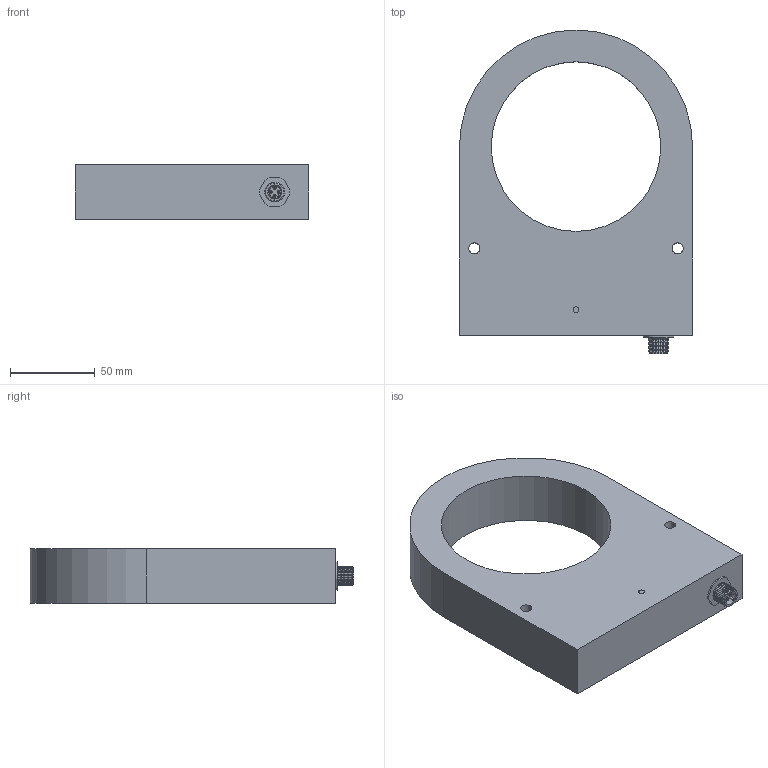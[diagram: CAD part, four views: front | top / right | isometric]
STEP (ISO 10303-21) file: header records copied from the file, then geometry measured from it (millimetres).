
FILE_DESCRIPTION((''),'2;1');
FILE_NAME('C:\TurckZip\S32XL-H1.stp','2007-11-12T09:47:07',('IKOROL'),(''),'Autodesk Inventor 2008','Autodesk Inventor 2008','');
FILE_SCHEMA(('AUTOMOTIVE_DESIGN { 1 2 10303 214 0 1 1 1 }'));
Length unit declared in the file: millimetre
Products named in the file (1): Part1
Bounding box: 137.5 x 191 x 32 mm (x, y, z)
Volume: 474226.9 mm3; surface area: 61376.2 mm2
Topology: 1 solids, 7 shells, 162 faces, 385 edges, 245 vertices
Faces by surface type: cylinder 57, plane 52, cone 34, bspline 13, torus 6
Full cylindrical faces by diameter (mm): 1.1 x4, 3.5 x1, 4 x1, 6.5 x2, 8 x1, 8.3 x1, 9 x1, 9.4 x1, 9.9 x1, 10 x1, 10.5 x1, 10.982 x1, 12 x1, 100 x1
Entity records: 4920 total; most frequent: CARTESIAN_POINT 1120, DIRECTION 794, ORIENTED_EDGE 630, AXIS2_PLACEMENT_3D 340, EDGE_CURVE 315, EDGE_LOOP 250, VERTEX_POINT 237, CIRCLE 190
